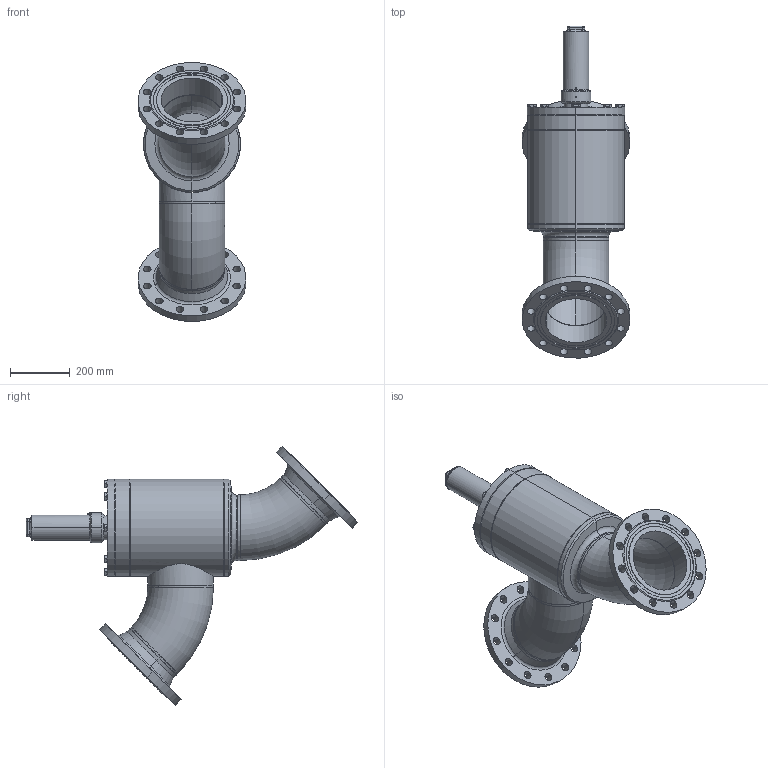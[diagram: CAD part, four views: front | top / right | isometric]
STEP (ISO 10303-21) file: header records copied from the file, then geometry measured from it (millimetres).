
FILE_DESCRIPTION (( 'STEP AP214' ), '1' );
FILE_NAME ('HRAR22320C23-DN200_DIN-FL-N_PS25.STEP', '2010-06-16T11:35:50', ( 'Eckhard Grams' ), ( 'AWP Kälte Klima Armaturen GmbH' ), 'SwSTEP 2.0', 'SolidWorks 2002296', '' );
FILE_SCHEMA (( 'AUTOMOTIVE_DESIGN' ));
Length unit declared in the file: millimetre
Products named in the file (23): HRAR22320C23-DN200_DIN-FL-N_PS25; AVR26300B23_Deck+Schr-DN200_Standard; Deckel,kpl26300B23-DN200_Standard; bead-deck264-200_Standard; bead-deck263-200_Standard; Buchse f Deckel16300-DN200_Standard; Scheibe f Deckel16300-DN200_Standard; Sechskantschraube-DIN933_M16x 45; Kappe 16402-23_DN200-350 (M80x3)_Standard; Geh,kpl16320-DN200_DIN_PS25_Standard; Geh,kpl 16300-DN200_R1_Standard; Gehäuse16300-DN200_Standard; Kopfstück16300-DN200_Standard; Rohrstutzen-A16300-DN200_R1_Standard; Boden16300-DN200_Standard; Rohrbogen 45°_R1-Fase_Rohrbogen-DN200-45°; bead Geh,kpl 16300-23-3_Standard; bead Geh,kpl 16300-23-2_Standard; bead Geh,kpl 16300-23-1_Standard; bead Geh,kpl 16300-23-4_Standard; Flansch-DIN2634-Nut_PS25_DIN-Flansch-DN200_PS25-Nut; bead Geh,kpl 16320-23-1_Standard; bead Geh,kpl 16320-23-2_Standard
Assembly tree (31 placements, depth 4):
  HRAR22320C23-DN200_DIN-FL-N_PS25
    Geh,kpl16320-DN200_DIN_PS25_Standard
      Flansch-DIN2634-Nut_PS25_DIN-Flansch-DN200_PS25-Nut  x2
      bead Geh,kpl 16320-23-1_Standard
      Geh,kpl 16300-DN200_R1_Standard
        Kopfstück16300-DN200_Standard
        bead Geh,kpl 16300-23-1_Standard
        Rohrbogen 45°_R1-Fase_Rohrbogen-DN200-45°  x2
        Boden16300-DN200_Standard
        bead Geh,kpl 16300-23-4_Standard
        bead Geh,kpl 16300-23-2_Standard
        Rohrstutzen-A16300-DN200_R1_Standard
        Gehäuse16300-DN200_Standard
        bead Geh,kpl 16300-23-3_Standard
      bead Geh,kpl 16320-23-2_Standard
    Kappe 16402-23_DN200-350 (M80x3)_Standard
    AVR26300B23_Deck+Schr-DN200_Standard
      Sechskantschraube-DIN933_M16x 45  x8
      Deckel,kpl26300B23-DN200_Standard
        Scheibe f Deckel16300-DN200_Standard
        bead-deck264-200_Standard
        bead-deck263-200_Standard
        Buchse f Deckel16300-DN200_Standard
Bounding box: 358.63 x 1109.62 x 864.9 mm (x, y, z)
Volume: 17737924.5 mm3; surface area: 2859668.6 mm2
Topology: 27 solids, 27 shells, 569 faces, 1317 edges, 797 vertices
Faces by surface type: cylinder 186, cone 170, plane 136, bspline 49, torus 28
Entity records: 72924 total; most frequent: CARTESIAN_POINT 64140, DIRECTION 1633, ORIENTED_EDGE 1582, EDGE_CURVE 791, AXIS2_PLACEMENT_3D 709, VERTEX_POINT 487, EDGE_LOOP 408, CIRCLE 384
